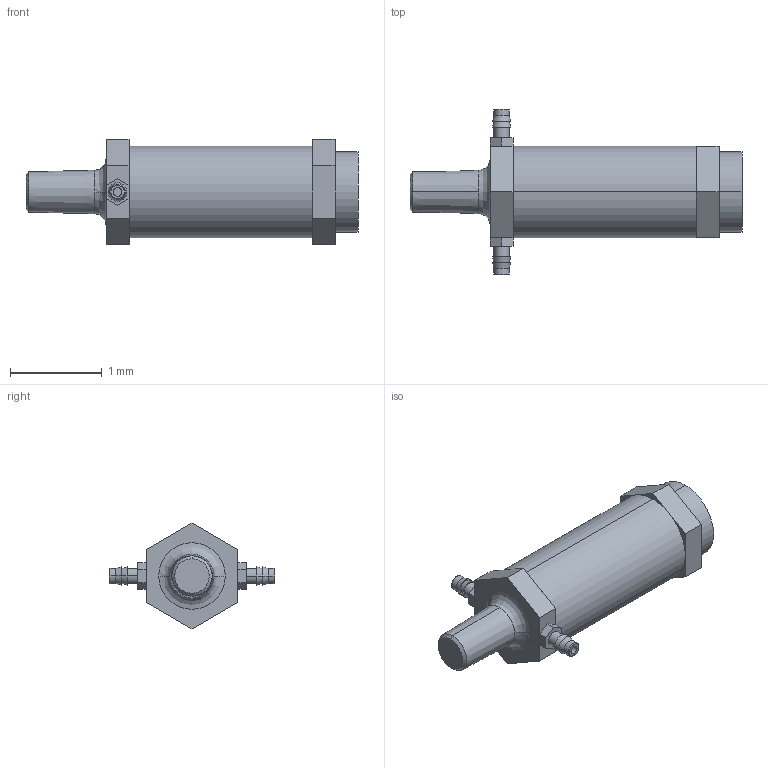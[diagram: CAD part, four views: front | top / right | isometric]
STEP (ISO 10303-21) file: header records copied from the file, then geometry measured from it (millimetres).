
FILE_DESCRIPTION((''),'2;1');
FILE_NAME('XBR2.stp','2017-11-07T11:39:21',(''),(''),'Mechanical Desktop 2011','Mechanical Desktop 2011',', , ');
FILE_SCHEMA(('CONFIG_CONTROL_DESIGN'));
Length unit declared in the file: millimetre
Products named in the file (1): Product
Bounding box: 3.62 x 1.81 x 1.15 mm (x, y, z)
Volume: 2.3 mm3; surface area: 17 mm2
Topology: 6 solids, 6 shells, 77 faces, 165 edges, 107 vertices
Faces by surface type: plane 43, cylinder 16, cone 12, torus 4, bspline 2
Entity records: 2265 total; most frequent: CARTESIAN_POINT 438, DIRECTION 382, ORIENTED_EDGE 330, EDGE_CURVE 165, AXIS2_PLACEMENT_3D 141, VERTEX_POINT 107, VECTOR 100, LINE 100
